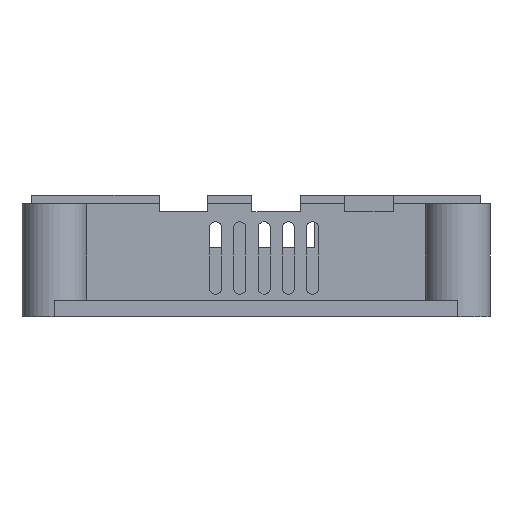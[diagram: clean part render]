
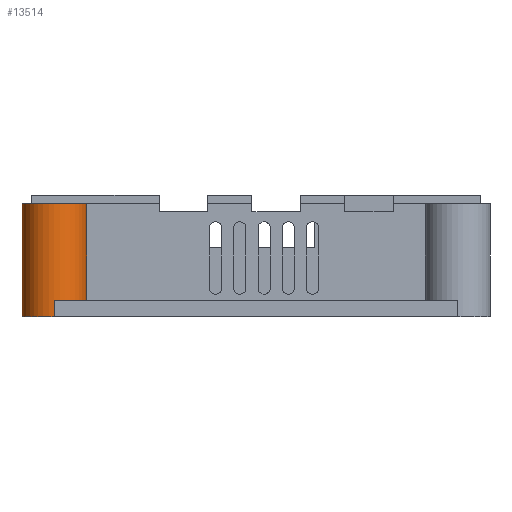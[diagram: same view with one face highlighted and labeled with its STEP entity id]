
A CAD part, left-side view. The second image highlights one B-rep face of the part: STEP entity #13514.
In plain terms, the highlighted cylindrical face has radius 4 mm (diameter 8 mm), a partial arc.
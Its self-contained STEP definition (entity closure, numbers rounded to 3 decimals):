
#281=CYLINDRICAL_SURFACE('',#14172,4.);
#876=CIRCLE('',#13947,4.);
#923=CIRCLE('',#14004,4.);
#955=CIRCLE('',#14170,4.);
#1653=FACE_OUTER_BOUND('',#2475,.T.);
#2475=EDGE_LOOP('',(#12315,#12316,#12317,#12318,#12319,#12320));
#3641=LINE('',#22733,#5032);
#3877=LINE('',#23341,#5268);
#3885=LINE('',#23371,#5276);
#5032=VECTOR('',#16186,10.);
#5268=VECTOR('',#16816,10.);
#5276=VECTOR('',#16852,10.);
#6381=VERTEX_POINT('',#22711);
#6382=VERTEX_POINT('',#22713);
#6390=VERTEX_POINT('',#22732);
#6485=VERTEX_POINT('',#22940);
#6565=VERTEX_POINT('',#23339);
#6573=VERTEX_POINT('',#23369);
#8180=EDGE_CURVE('',#6382,#6381,#876,.T.);
#8190=EDGE_CURVE('',#6390,#6382,#3641,.T.);
#8294=EDGE_CURVE('',#6390,#6485,#923,.T.);
#8492=EDGE_CURVE('',#6381,#6565,#3877,.T.);
#8505=EDGE_CURVE('',#6573,#6485,#3885,.T.);
#8510=EDGE_CURVE('',#6573,#6565,#955,.T.);
#12315=ORIENTED_EDGE('',*,*,#8505,.T.);
#12316=ORIENTED_EDGE('',*,*,#8294,.F.);
#12317=ORIENTED_EDGE('',*,*,#8190,.T.);
#12318=ORIENTED_EDGE('',*,*,#8180,.T.);
#12319=ORIENTED_EDGE('',*,*,#8492,.T.);
#12320=ORIENTED_EDGE('',*,*,#8510,.F.);
#13514=ADVANCED_FACE('',(#1653),#281,.T.);
#13947=AXIS2_PLACEMENT_3D('',#22714,#16168,#16169);
#14004=AXIS2_PLACEMENT_3D('',#22941,#16349,#16350);
#14170=AXIS2_PLACEMENT_3D('',#23380,#16865,#16866);
#14172=AXIS2_PLACEMENT_3D('',#23382,#16869,#16870);
#16168=DIRECTION('center_axis',(0.,0.,1.));
#16169=DIRECTION('ref_axis',(-0.707,0.707,0.));
#16186=DIRECTION('',(0.,0.,-1.));
#16349=DIRECTION('center_axis',(0.,0.,1.));
#16350=DIRECTION('ref_axis',(-1.,0.,0.));
#16816=DIRECTION('',(0.,0.,1.));
#16852=DIRECTION('',(0.,0.,1.));
#16865=DIRECTION('center_axis',(0.,0.,-1.));
#16866=DIRECTION('ref_axis',(-1.,0.,0.));
#16869=DIRECTION('center_axis',(0.,0.,1.));
#16870=DIRECTION('ref_axis',(-1.,0.,0.));
#22711=CARTESIAN_POINT('',(-60.,25.,0.));
#22713=CARTESIAN_POINT('',(-56.,29.,0.));
#22714=CARTESIAN_POINT('Origin',(-56.,25.,0.));
#22732=CARTESIAN_POINT('',(-56.,29.,14.));
#22733=CARTESIAN_POINT('',(-56.,29.,0.));
#22940=CARTESIAN_POINT('',(-56.,21.,14.));
#22941=CARTESIAN_POINT('Origin',(-56.,25.,14.));
#23339=CARTESIAN_POINT('',(-60.,25.,2.));
#23341=CARTESIAN_POINT('',(-60.,25.,0.));
#23369=CARTESIAN_POINT('',(-56.,21.,2.));
#23371=CARTESIAN_POINT('',(-56.,21.,2.));
#23380=CARTESIAN_POINT('Origin',(-56.,25.,2.));
#23382=CARTESIAN_POINT('Origin',(-56.,25.,2.));
